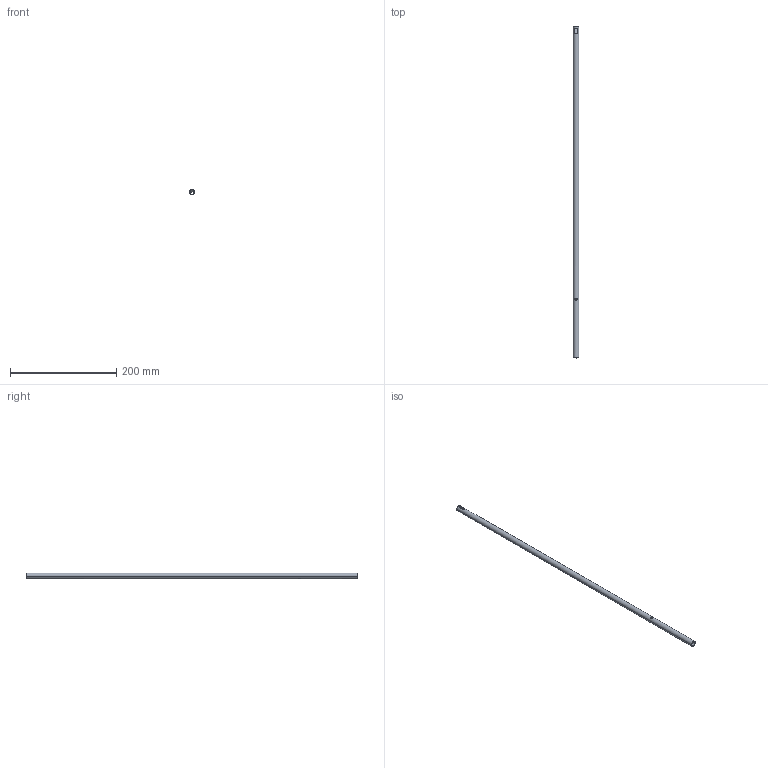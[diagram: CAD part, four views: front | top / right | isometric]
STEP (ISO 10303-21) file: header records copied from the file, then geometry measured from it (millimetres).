
FILE_DESCRIPTION (( 'STEP AP214' ), '1' );
FILE_NAME ('Relingsrohr-Frontstütze_P710701300_650.step', '2010-09-07T12:59:31', ( 'grass' ), ( '' ), 'SwSTEP 2.0', 'SolidWorks 2010', '' );
FILE_SCHEMA (( 'AUTOMOTIVE_DESIGN' ));
Length unit declared in the file: millimetre
Products named in the file (1): Relingsrohr-Frontstütze_P710701300_650
Bounding box: 11 x 626 x 11 mm (x, y, z)
Volume: 19603.7 mm3; surface area: 39356.8 mm2
Topology: 1 solids, 1 shells, 18 faces, 46 edges, 30 vertices
Faces by surface type: plane 10, cylinder 8
Entity records: 850 total; most frequent: CARTESIAN_POINT 351, ORIENTED_EDGE 92, DIRECTION 84, EDGE_CURVE 46, VERTEX_POINT 30, AXIS2_PLACEMENT_3D 29, LINE 26, VECTOR 26
